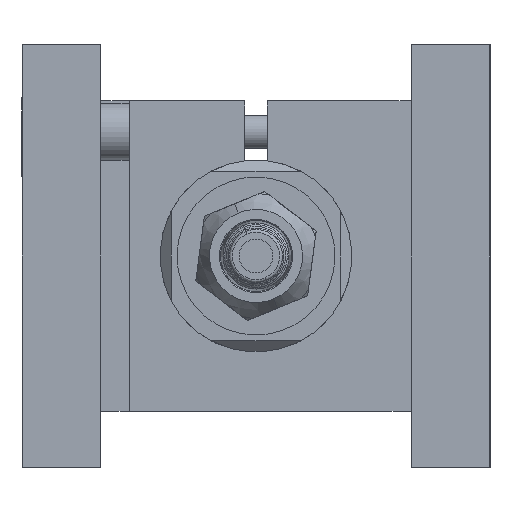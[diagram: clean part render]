
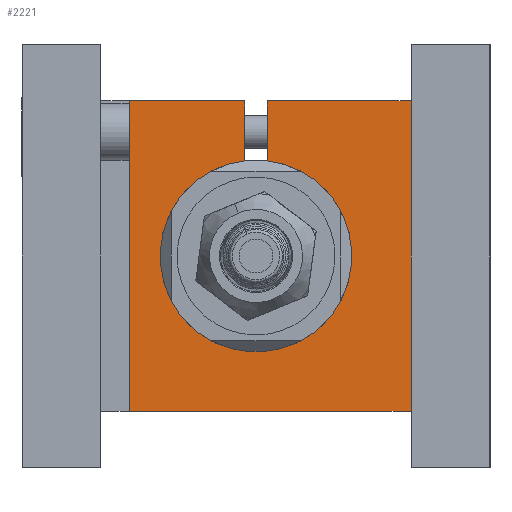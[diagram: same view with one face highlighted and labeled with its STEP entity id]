
A CAD part, left-side view. The second image highlights one B-rep face of the part: STEP entity #2221.
In plain terms, the highlighted planar face has unit normal (-1, 0, 0).
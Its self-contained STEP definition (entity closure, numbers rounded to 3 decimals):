
#58 = CIRCLE ( 'NONE', #1505, 17. ) ;
#397 = CARTESIAN_POINT ( 'NONE',  ( -60.5, 14., 27.5 ) ) ;
#1067 = ORIENTED_EDGE ( 'NONE', *, *, #4283, .F. ) ;
#1197 = ORIENTED_EDGE ( 'NONE', *, *, #7699, .F. ) ;
#1374 = VERTEX_POINT ( 'NONE', #9436 ) ;
#1454 = ORIENTED_EDGE ( 'NONE', *, *, #15919, .T. ) ;
#1505 = AXIS2_PLACEMENT_3D ( 'NONE', #12748, #17412, #15840 ) ;
#1533 = CARTESIAN_POINT ( 'NONE',  ( -60.5, 39.5, -37.501 ) ) ;
#1752 = DIRECTION ( 'NONE',  ( 0., 0., 1. ) ) ;
#1872 = ORIENTED_EDGE ( 'NONE', *, *, #9483, .T. ) ;
#2221 = ADVANCED_FACE ( 'NONE', ( #13553 ), #11896, .F. ) ;
#2777 = EDGE_CURVE ( 'NONE', #11449, #6032, #10537, .T. ) ;
#3306 = LINE ( 'NONE', #1533, #20233 ) ;
#3782 = CARTESIAN_POINT ( 'NONE',  ( -60.5, 14., 27.5 ) ) ;
#4283 = EDGE_CURVE ( 'NONE', #14609, #21289, #3306, .T. ) ;
#4925 = EDGE_CURVE ( 'NONE', #21683, #10868, #10703, .T. ) ;
#5705 = EDGE_LOOP ( 'NONE', ( #1197, #1454, #9739, #6592, #1872, #5898, #11287, #1067 ) ) ;
#5898 = ORIENTED_EDGE ( 'NONE', *, *, #4925, .T. ) ;
#6032 = VERTEX_POINT ( 'NONE', #14782 ) ;
#6592 = ORIENTED_EDGE ( 'NONE', *, *, #17576, .F. ) ;
#6821 = DIRECTION ( 'NONE',  ( 0., 0., -1. ) ) ;
#6929 = DIRECTION ( 'NONE',  ( 0., -1., 0. ) ) ;
#7699 = EDGE_CURVE ( 'NONE', #19691, #14609, #58, .T. ) ;
#7722 = CARTESIAN_POINT ( 'NONE',  ( -60.5, 64., 27.5 ) ) ;
#9370 = LINE ( 'NONE', #21396, #19788 ) ;
#9436 = CARTESIAN_POINT ( 'NONE',  ( -60.5, 64., -27.5 ) ) ;
#9483 = EDGE_CURVE ( 'NONE', #1374, #21683, #9370, .T. ) ;
#9739 = ORIENTED_EDGE ( 'NONE', *, *, #2777, .F. ) ;
#10347 = CARTESIAN_POINT ( 'NONE',  ( -60.5, 64., 27.5 ) ) ;
#10425 = CARTESIAN_POINT ( 'NONE',  ( -60.5, 43.5, 16.882 ) ) ;
#10537 = LINE ( 'NONE', #14075, #14574 ) ;
#10703 = LINE ( 'NONE', #397, #14109 ) ;
#10868 = VERTEX_POINT ( 'NONE', #3782 ) ;
#10899 = CARTESIAN_POINT ( 'NONE',  ( -60.5, 43.5, -37.501 ) ) ;
#10984 = AXIS2_PLACEMENT_3D ( 'NONE', #13440, #11563, #6821 ) ;
#10993 = DIRECTION ( 'NONE',  ( 0., 0., 1. ) ) ;
#11287 = ORIENTED_EDGE ( 'NONE', *, *, #20431, .F. ) ;
#11449 = VERTEX_POINT ( 'NONE', #7722 ) ;
#11563 = DIRECTION ( 'NONE',  ( 1., 0., 0. ) ) ;
#11896 = PLANE ( 'NONE',  #10984 ) ;
#12383 = DIRECTION ( 'NONE',  ( 0., 0., 1. ) ) ;
#12748 = CARTESIAN_POINT ( 'NONE',  ( -60.5, 41.5, 0. ) ) ;
#13046 = CARTESIAN_POINT ( 'NONE',  ( -60.5, 14., -27.5 ) ) ;
#13440 = CARTESIAN_POINT ( 'NONE',  ( -60.5, 64., 27.5 ) ) ;
#13553 = FACE_OUTER_BOUND ( 'NONE', #5705, .T. ) ;
#14075 = CARTESIAN_POINT ( 'NONE',  ( -60.5, 64., 27.5 ) ) ;
#14109 = VECTOR ( 'NONE', #12383, 1000. ) ;
#14574 = VECTOR ( 'NONE', #18834, 1000. ) ;
#14609 = VERTEX_POINT ( 'NONE', #15123 ) ;
#14611 = CARTESIAN_POINT ( 'NONE',  ( -60.5, 39.5, 27.5 ) ) ;
#14637 = CARTESIAN_POINT ( 'NONE',  ( -60.5, 64., 27.5 ) ) ;
#14782 = CARTESIAN_POINT ( 'NONE',  ( -60.5, 43.5, 27.5 ) ) ;
#15123 = CARTESIAN_POINT ( 'NONE',  ( -60.5, 39.5, 16.882 ) ) ;
#15321 = LINE ( 'NONE', #10347, #15496 ) ;
#15496 = VECTOR ( 'NONE', #6929, 1000. ) ;
#15840 = DIRECTION ( 'NONE',  ( 0., 0., 1. ) ) ;
#15919 = EDGE_CURVE ( 'NONE', #19691, #6032, #19310, .T. ) ;
#16086 = LINE ( 'NONE', #14637, #20693 ) ;
#16562 = DIRECTION ( 'NONE',  ( 0., -1., 0. ) ) ;
#17412 = DIRECTION ( 'NONE',  ( -1., 0., 0. ) ) ;
#17576 = EDGE_CURVE ( 'NONE', #1374, #11449, #16086, .T. ) ;
#17661 = DIRECTION ( 'NONE',  ( 0., 0., 1. ) ) ;
#18834 = DIRECTION ( 'NONE',  ( 0., -1., 0. ) ) ;
#19310 = LINE ( 'NONE', #10899, #20986 ) ;
#19691 = VERTEX_POINT ( 'NONE', #10425 ) ;
#19788 = VECTOR ( 'NONE', #16562, 1000. ) ;
#20233 = VECTOR ( 'NONE', #1752, 1000. ) ;
#20431 = EDGE_CURVE ( 'NONE', #21289, #10868, #15321, .T. ) ;
#20693 = VECTOR ( 'NONE', #10993, 1000. ) ;
#20986 = VECTOR ( 'NONE', #17661, 1000. ) ;
#21289 = VERTEX_POINT ( 'NONE', #14611 ) ;
#21396 = CARTESIAN_POINT ( 'NONE',  ( -60.5, 64., -27.5 ) ) ;
#21683 = VERTEX_POINT ( 'NONE', #13046 ) ;
